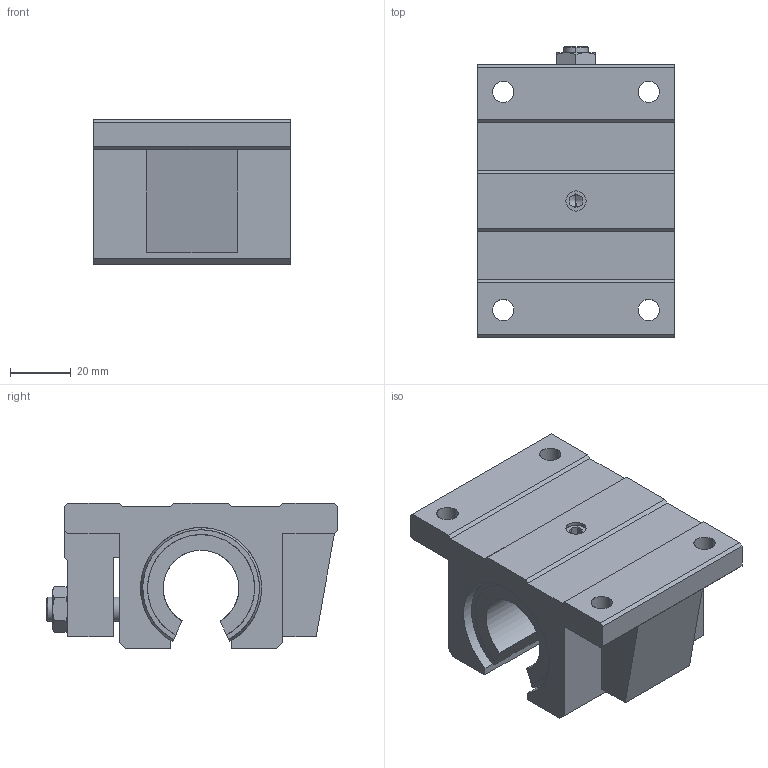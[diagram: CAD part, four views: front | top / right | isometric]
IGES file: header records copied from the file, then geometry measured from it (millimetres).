
Global section: file name: No Iges File Name specified; native system: AutoDesk Inventor R10; preprocessor: AutoDesk Inventor Iges Exporter R10; author: No Author specified; organization: No Organization specified; date: 20101221.092020; units: millimetre
Bounding box: 65 x 96 x 48 mm (x, y, z)
Surface area: 32839.2 mm2 (no closed solid volume)
Topology: 0 solids, 0 shells, 136 faces, 890 edges, 886 vertices
Faces by surface type: bspline 136
